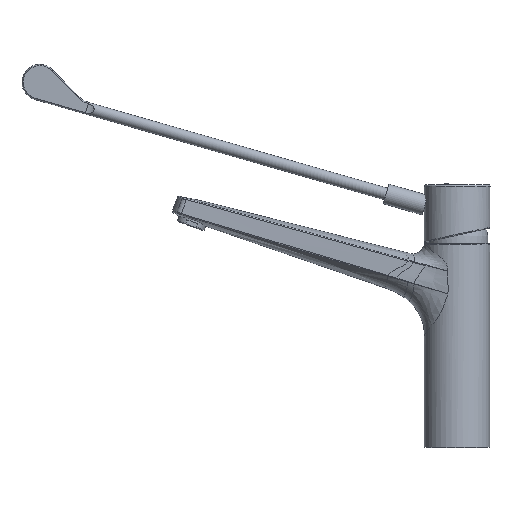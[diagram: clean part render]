
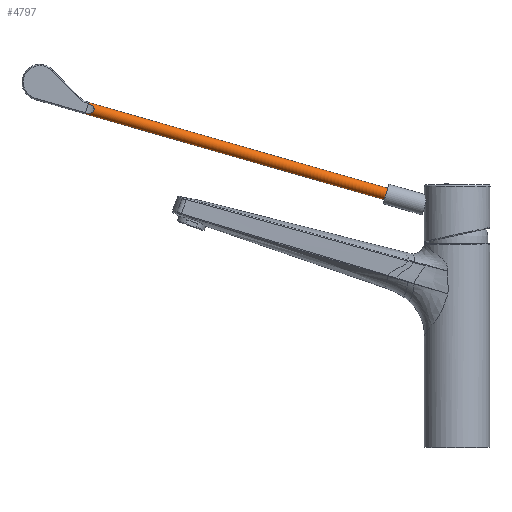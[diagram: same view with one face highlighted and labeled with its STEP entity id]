
A CAD part, top view. The second image highlights one B-rep face of the part: STEP entity #4797.
In plain terms, the highlighted cylindrical face has radius 5 mm (diameter 10 mm), a partial arc.
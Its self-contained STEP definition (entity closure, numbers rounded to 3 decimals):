
#547=CARTESIAN_POINT('',(-59.675,152.661,0.));
#548=DIRECTION('',(0.961,-0.276,0.));
#549=DIRECTION('',(0.276,0.961,0.));
#550=AXIS2_PLACEMENT_3D('',#547,#548,#549);
#634=CARTESIAN_POINT('',(-310.546,224.597,
0.));
#635=DIRECTION('',(0.961,-0.276,0.));
#636=DIRECTION('',(-0.221,-0.769,0.6));
#637=AXIS2_PLACEMENT_3D('',#634,#635,#636);
#639=DIRECTION('',(0.961,-0.276,0.));
#640=VECTOR('',#639,260.981);
#641=CARTESIAN_POINT('',(-311.924,219.791,
0.));
#642=LINE('',#641,#640);
#643=CARTESIAN_POINT('',(-311.648,220.752,3.));
#644=CARTESIAN_POINT('',(-311.528,220.718,3.));
#645=CARTESIAN_POINT('',(-311.288,220.652,3.005));
#646=CARTESIAN_POINT('',(-310.925,220.565,3.026));
#647=CARTESIAN_POINT('',(-310.565,220.489,3.06));
#648=CARTESIAN_POINT('',(-310.209,220.425,3.107));
#649=CARTESIAN_POINT('',(-309.858,220.374,3.166));
#650=CARTESIAN_POINT('',(-309.516,220.336,3.235));
#651=CARTESIAN_POINT('',(-309.184,220.311,3.313));
#652=CARTESIAN_POINT('',(-308.863,220.299,3.399));
#653=CARTESIAN_POINT('',(-308.554,220.301,3.491));
#654=CARTESIAN_POINT('',(-308.26,220.316,3.586));
#655=CARTESIAN_POINT('',(-307.979,220.344,3.685));
#656=CARTESIAN_POINT('',(-307.712,220.384,3.784));
#657=CARTESIAN_POINT('',(-307.46,220.436,3.884));
#658=CARTESIAN_POINT('',(-307.222,220.498,3.983));
#659=CARTESIAN_POINT('',(-306.997,220.571,4.08));
#660=CARTESIAN_POINT('',(-306.786,220.653,4.174));
#661=CARTESIAN_POINT('',(-306.586,220.744,4.264));
#662=CARTESIAN_POINT('',(-306.399,220.844,4.351));
#663=CARTESIAN_POINT('',(-306.224,220.951,4.434));
#664=CARTESIAN_POINT('',(-306.058,221.066,4.512));
#665=CARTESIAN_POINT('',(-305.904,221.187,4.584));
#666=CARTESIAN_POINT('',(-305.76,221.315,4.652));
#667=CARTESIAN_POINT('',(-305.625,221.449,4.714));
#668=CARTESIAN_POINT('',(-305.499,221.587,4.77));
#669=CARTESIAN_POINT('',(-305.382,221.732,4.821));
#670=CARTESIAN_POINT('',(-305.274,221.881,4.865));
#671=CARTESIAN_POINT('',(-305.175,222.034,4.903));
#672=CARTESIAN_POINT('',(-305.084,222.192,4.936));
#673=CARTESIAN_POINT('',(-305.001,222.353,4.961));
#674=CARTESIAN_POINT('',(-304.927,222.518,4.981));
#675=CARTESIAN_POINT('',(-304.861,222.686,4.994));
#676=CARTESIAN_POINT('',(-304.803,222.857,5.));
#677=CARTESIAN_POINT('',(-304.753,223.03,5.));
#678=CARTESIAN_POINT('',(-304.712,223.206,4.994));
#679=CARTESIAN_POINT('',(-304.679,223.383,4.981));
#680=CARTESIAN_POINT('',(-304.655,223.562,4.961));
#681=CARTESIAN_POINT('',(-304.639,223.743,4.936));
#682=CARTESIAN_POINT('',(-304.633,223.925,4.903));
#683=CARTESIAN_POINT('',(-304.636,224.107,4.865));
#684=CARTESIAN_POINT('',(-304.649,224.291,4.821));
#685=CARTESIAN_POINT('',(-304.671,224.475,4.77));
#686=CARTESIAN_POINT('',(-304.704,224.66,4.714));
#687=CARTESIAN_POINT('',(-304.747,224.845,4.652));
#688=CARTESIAN_POINT('',(-304.802,225.03,4.584));
#689=CARTESIAN_POINT('',(-304.869,225.214,4.512));
#690=CARTESIAN_POINT('',(-304.948,225.399,4.434));
#691=CARTESIAN_POINT('',(-305.04,225.583,4.351));
#692=CARTESIAN_POINT('',(-305.146,225.767,4.264));
#693=CARTESIAN_POINT('',(-305.267,225.95,4.174));
#694=CARTESIAN_POINT('',(-305.403,226.131,4.08));
#695=CARTESIAN_POINT('',(-305.555,226.312,3.983));
#696=CARTESIAN_POINT('',(-305.724,226.492,3.884));
#697=CARTESIAN_POINT('',(-305.91,226.669,3.784));
#698=CARTESIAN_POINT('',(-306.115,226.844,3.685));
#699=CARTESIAN_POINT('',(-306.338,227.016,3.586));
#700=CARTESIAN_POINT('',(-306.58,227.185,3.491));
#701=CARTESIAN_POINT('',(-306.841,227.35,3.399));
#702=CARTESIAN_POINT('',(-307.119,227.511,3.313));
#703=CARTESIAN_POINT('',(-307.414,227.666,3.235));
#704=CARTESIAN_POINT('',(-307.725,227.815,3.166));
#705=CARTESIAN_POINT('',(-308.049,227.957,3.107));
#706=CARTESIAN_POINT('',(-308.385,228.092,3.06));
#707=CARTESIAN_POINT('',(-308.731,228.218,3.026));
#708=CARTESIAN_POINT('',(-309.084,228.336,3.005));
#709=CARTESIAN_POINT('',(-309.323,228.408,3.));
#710=CARTESIAN_POINT('',(-309.443,228.442,3.));
#712=DIRECTION('',(0.961,-0.276,0.));
#713=VECTOR('',#712,260.981);
#714=CARTESIAN_POINT('',(-309.168,229.404,
0.));
#715=LINE('',#714,#713);
#730=CARTESIAN_POINT('',(-310.546,224.597,
0.));
#731=DIRECTION('',(0.961,-0.276,0.));
#732=DIRECTION('',(0.276,0.961,0.));
#733=AXIS2_PLACEMENT_3D('',#730,#731,#732);
#4182=CARTESIAN_POINT('',(-309.443,228.442,3.));
#4184=VERTEX_POINT('',#4182);
#4189=CARTESIAN_POINT('',(-311.648,220.752,3.));
#4190=VERTEX_POINT('',#4189);
#4197=CARTESIAN_POINT('',(-309.168,229.404,
0.));
#4198=VERTEX_POINT('',#4197);
#4199=CARTESIAN_POINT('',(-311.924,219.791,
0.));
#4200=VERTEX_POINT('',#4199);
#4210=CARTESIAN_POINT('',(-61.053,147.855,
0.));
#4211=CARTESIAN_POINT('',(-58.297,157.468,
0.));
#4212=VERTEX_POINT('',#4210);
#4213=VERTEX_POINT('',#4211);
#4782=CARTESIAN_POINT('',(-324.531,228.608,
0.));
#4783=DIRECTION('',(0.961,-0.276,0.));
#4784=DIRECTION('',(-0.276,-0.961,0.));
#4785=AXIS2_PLACEMENT_3D('',#4782,#4783,#4784);
#4786=CYLINDRICAL_SURFACE('',#4785,5.);
#4787=ORIENTED_EDGE('',*,*,#4726,.T.);
#4788=ORIENTED_EDGE('',*,*,#4765,.F.);
#4789=ORIENTED_EDGE('',*,*,#4763,.F.);
#4791=ORIENTED_EDGE('',*,*,#4790,.T.);
#4793=ORIENTED_EDGE('',*,*,#4792,.F.);
#4794=ORIENTED_EDGE('',*,*,#4749,.T.);
#4795=EDGE_LOOP('',(#4787,#4788,#4789,#4791,#4793,#4794));
#4796=FACE_OUTER_BOUND('',#4795,.F.);
#551=CIRCLE('',#550,5.);
#638=CIRCLE('',#637,5.);
#711=B_SPLINE_CURVE_WITH_KNOTS('',3,(#643,#644,#645,#646,#647,#648,#649,#650,
#651,#652,#653,#654,#655,#656,#657,#658,#659,#660,#661,#662,#663,#664,#665,#666,
#667,#668,#669,#670,#671,#672,#673,#674,#675,#676,#677,#678,#679,#680,#681,#682,
#683,#684,#685,#686,#687,#688,#689,#690,#691,#692,#693,#694,#695,#696,#697,#698,
#699,#700,#701,#702,#703,#704,#705,#706,#707,#708,#709,#710),.UNSPECIFIED.,.F.,
.F.,(4,1,1,1,1,1,1,1,1,1,1,1,1,1,1,1,1,1,1,1,1,1,1,1,1,1,1,1,1,1,1,1,1,1,1,1,1,
1,1,1,1,1,1,1,1,1,1,1,1,1,1,1,1,1,1,1,1,1,1,1,1,1,1,1,1,4),(0.,
0.015,0.031,0.046,0.062,
0.077,0.092,0.108,0.123,
0.138,0.154,0.169,0.185,0.2,
0.215,0.231,0.246,0.262,
0.277,0.292,0.308,0.323,
0.338,0.354,0.369,0.385,0.4,
0.415,0.431,0.446,0.462,
0.477,0.492,0.508,0.523,
0.538,0.554,0.569,0.585,0.6,
0.615,0.631,0.646,0.662,
0.677,0.692,0.708,0.723,
0.738,0.754,0.769,0.785,0.8,
0.815,0.831,0.846,0.862,
0.877,0.892,0.908,0.923,
0.938,0.954,0.969,0.985,1.),
.UNSPECIFIED.);
#734=CIRCLE('',#733,5.);
#4726=EDGE_CURVE('',#4213,#4212,#551,.T.);
#4749=EDGE_CURVE('',#4198,#4213,#715,.T.);
#4763=EDGE_CURVE('',#4190,#4200,#638,.T.);
#4765=EDGE_CURVE('',#4200,#4212,#642,.T.);
#4790=EDGE_CURVE('',#4190,#4184,#711,.T.);
#4792=EDGE_CURVE('',#4198,#4184,#734,.T.);
#4797=ADVANCED_FACE('',(#4796),#4786,.T.);
